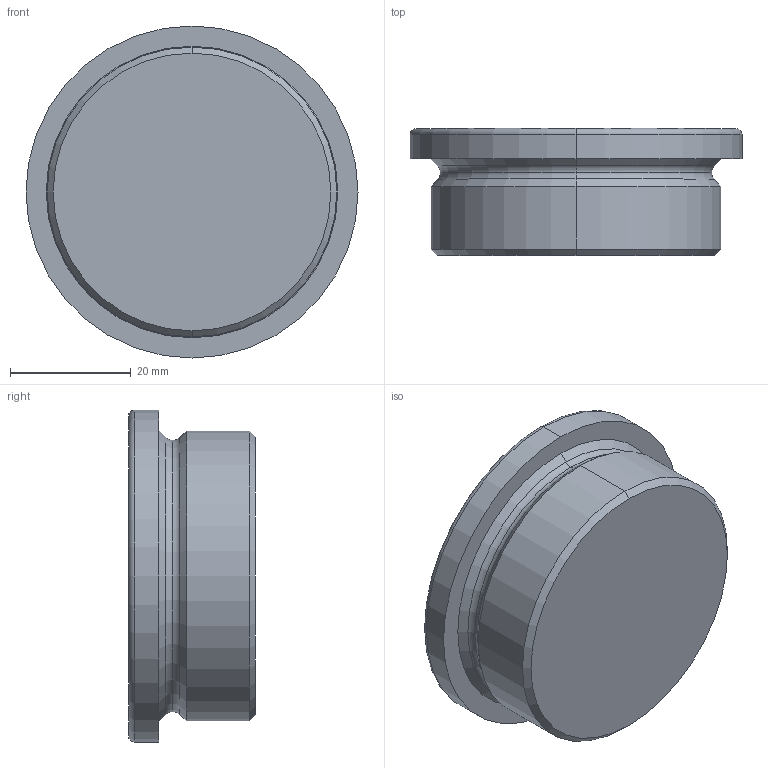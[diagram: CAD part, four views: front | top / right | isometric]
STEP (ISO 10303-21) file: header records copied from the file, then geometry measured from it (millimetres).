
FILE_DESCRIPTION (( 'STEP AP214' ), '1' );
FILE_NAME ('908-ST-M48x2-A.step', '2024-12-19T09:17:29', ( '' ), ( '' ), 'SwSTEP 2.0', 'SolidWorks 2022', '' );
FILE_SCHEMA (( 'AUTOMOTIVE_DESIGN' ));
Length unit declared in the file: millimetre
Products named in the file (1): 908-ST-M48x2-A
Bounding box: 55 x 21 x 55 mm (x, y, z)
Volume: 34866.1 mm3; surface area: 8853.4 mm2
Topology: 1 solids, 1 shells, 26 faces, 54 edges, 32 vertices
Faces by surface type: plane 10, torus 6, cone 6, cylinder 4
Entity records: 744 total; most frequent: DIRECTION 134, CARTESIAN_POINT 113, ORIENTED_EDGE 108, EDGE_CURVE 54, AXIS2_PLACEMENT_3D 53, VERTEX_POINT 32, VECTOR 28, LINE 28
